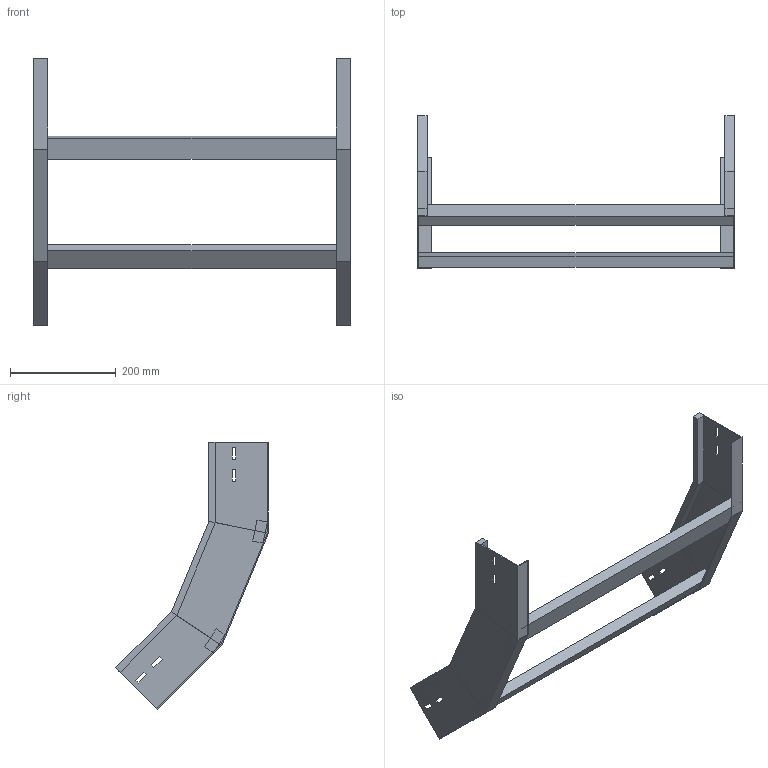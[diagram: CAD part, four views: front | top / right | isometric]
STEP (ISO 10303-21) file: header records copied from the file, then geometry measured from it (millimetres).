
FILE_DESCRIPTION (( 'STEP AP214' ), '1' );
FILE_NAME ('A2X31B3J600XX.step', '2025-03-20T10:06:35', ( '' ), ( '' ), 'SwSTEP 2.0', 'SolidWorks 2023', '' );
FILE_SCHEMA (( 'AUTOMOTIVE_DESIGN' ));
Length unit declared in the file: millimetre
Products named in the file (3): LONGH.SALITA_45°_H112.5_R300; TRAVERSINO_600; A2X31B3J600XX
Assembly tree (4 placements, depth 2):
  A2X31B3J600XX
    LONGH.SALITA_45°_H112.5_R300  x2
    TRAVERSINO_600  x2
Bounding box: 600 x 289.26 x 506.29 mm (x, y, z)
Volume: 1446600.5 mm3; surface area: 478955.8 mm2
Topology: 4 solids, 4 shells, 96 faces, 232 edges, 144 vertices
Faces by surface type: plane 96
Entity records: 1472 total; most frequent: CARTESIAN_POINT 243, ORIENTED_EDGE 232, DIRECTION 226, LINE 116, EDGE_CURVE 116, VECTOR 116, VERTEX_POINT 72, EDGE_LOOP 56
